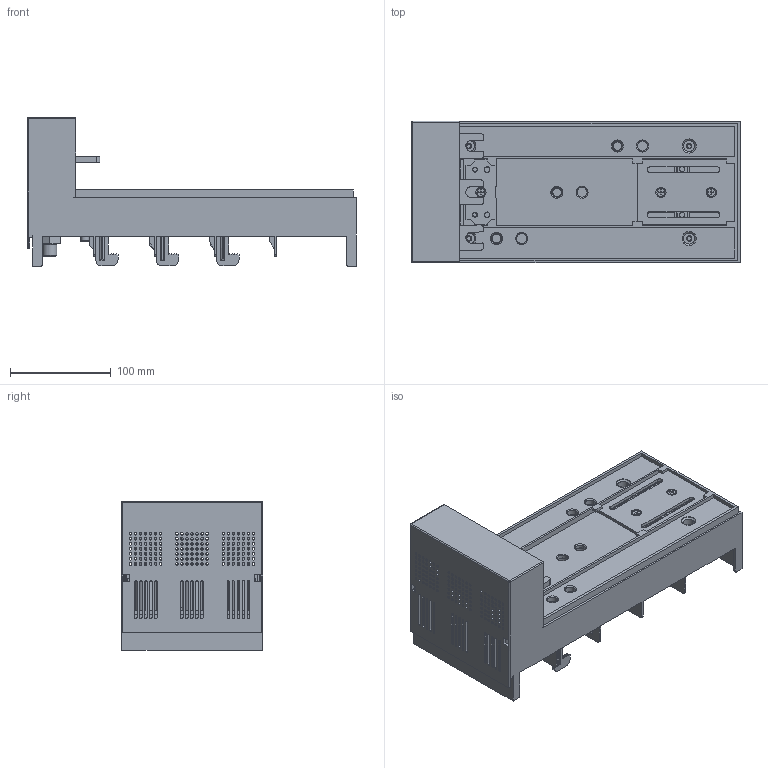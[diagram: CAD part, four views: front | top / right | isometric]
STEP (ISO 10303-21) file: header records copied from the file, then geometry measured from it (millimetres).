
FILE_DESCRIPTION (( 'STEP AP214' ), '1' );
FILE_NAME ('55085潠芞.ST', '2023-08-03T07:43:20', ( 'Windows User' ), ( 'P R C' ), 'SwSTEP 2.0', 'SolidWorks 2019', '' );
FILE_SCHEMA (( 'AUTOMOTIVE_DESIGN' ));
Products named in the file (1): 55085潠芞赤_“a_
Bounding box: 327 x 140.5 x 148 mm (x, y, z)
Volume: 1707021.3 mm3; surface area: 424165.3 mm2
Topology: 2 solids, 49 shells, 4676 faces, 12587 edges, 8076 vertices
Faces by surface type: plane 3353, cylinder 998, bspline 153, cone 144, torus 22, sphere 6
Entity records: 157922 total; most frequent: CARTESIAN_POINT 40629, ORIENTED_EDGE 25142, DIRECTION 22990, EDGE_CURVE 12571, LINE 9598, VECTOR 9598, VERTEX_POINT 8076, AXIS2_PLACEMENT_3D 6696
